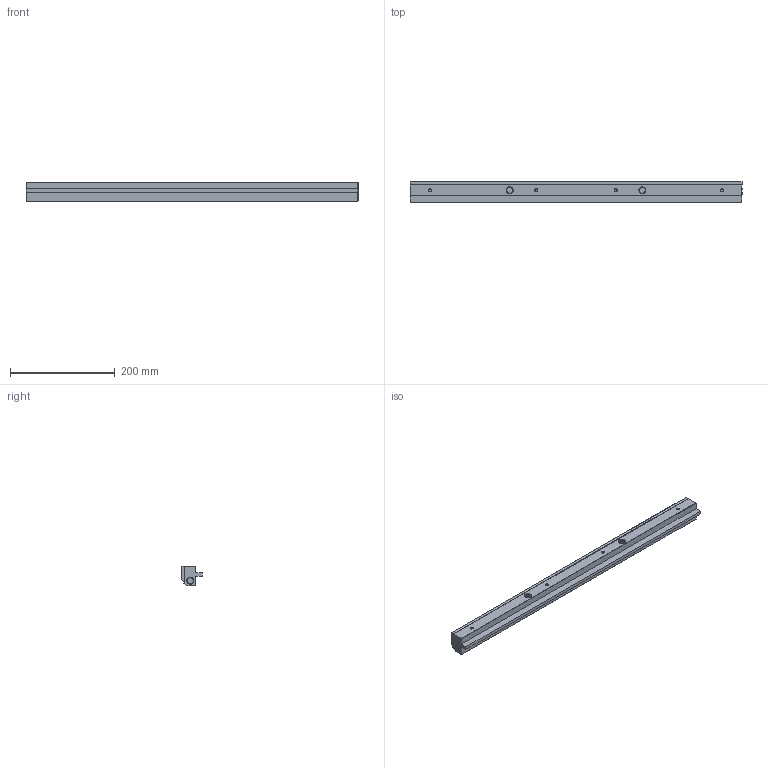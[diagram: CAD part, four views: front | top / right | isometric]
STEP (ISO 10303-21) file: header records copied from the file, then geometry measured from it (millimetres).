
FILE_DESCRIPTION (( 'STEP AP214' ), '1' );
FILE_NAME ('STEP - RA-2_600.STEP', '2023-07-24T09:31:10', ( '' ), ( '' ), 'SwSTEP 2.0', 'SolidWorks 2021', '' );
FILE_SCHEMA (( 'AUTOMOTIVE_DESIGN' ));
Length unit declared in the file: millimetre
Products named in the file (1): STEP - RA-2_600
Bounding box: 634 x 39.68 x 38 mm (x, y, z)
Volume: 658221.4 mm3; surface area: 106531.9 mm2
Topology: 1 solids, 144 shells, 2279 faces, 5678 edges, 3776 vertices
Faces by surface type: plane 983, bspline 659, cylinder 512, cone 86, torus 39
Full cylindrical faces by diameter (mm): 11.3 x13
Entity records: 312589 total; most frequent: CARTESIAN_POINT 241178, ORIENTED_EDGE 11096, DIRECTION 7155, EDGE_CURVE 5548, VERTEX_POINT 3711, EDGE_LOOP 2433, AXIS2_PLACEMENT_3D 2413, LINE 2329
